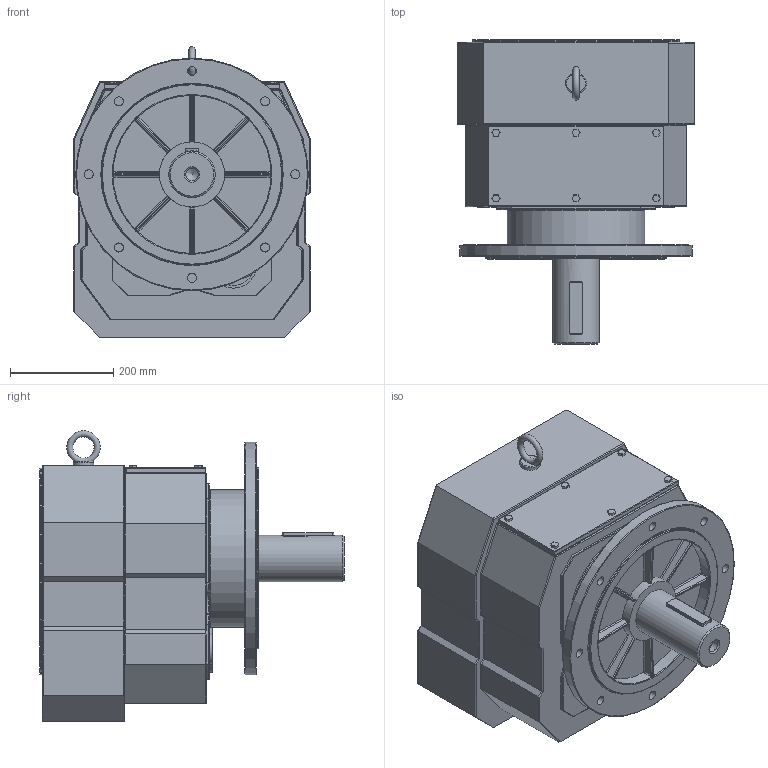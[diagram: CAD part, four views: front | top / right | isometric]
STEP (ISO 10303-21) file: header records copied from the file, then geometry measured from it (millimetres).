
FILE_DESCRIPTION((''),'2;1');
FILE_NAME('D:\PAWEŁ\ZLECENIA\2011 DualSystem\Przekładnie DR\DR130\STEP\DRF130_fi 450.stp','2012-06-11T12:33:18',('admin'),(''),'Autodesk Inventor 2009','Autodesk Inventor 2009','');
FILE_SCHEMA(('AUTOMOTIVE_DESIGN { 1 0 10303 214 1 1 1 1 }'));
Length unit declared in the file: millimetre
Products named in the file (1): DRF130_fi 450
Bounding box: 458 x 589 x 561.97 mm (x, y, z)
Volume: 72074804 mm3; surface area: 1516728.8 mm2
Topology: 2 solids, 2 shells, 547 faces, 1311 edges, 743 vertices
Faces by surface type: cylinder 238, plane 166, bspline 71, sphere 44, torus 26, cone 2
Full cylindrical faces by diameter (mm): 40 x1, 60 x1, 80 x1, 90 x2, 126 x1, 266 x1, 310 x1, 350 x1, 400 x1, 450 x1
Entity records: 19962 total; most frequent: CARTESIAN_POINT 7549, DIRECTION 2610, ORIENTED_EDGE 2454, EDGE_CURVE 1227, AXIS2_PLACEMENT_3D 1001, VERTEX_POINT 730, EDGE_LOOP 617, VECTOR 608
